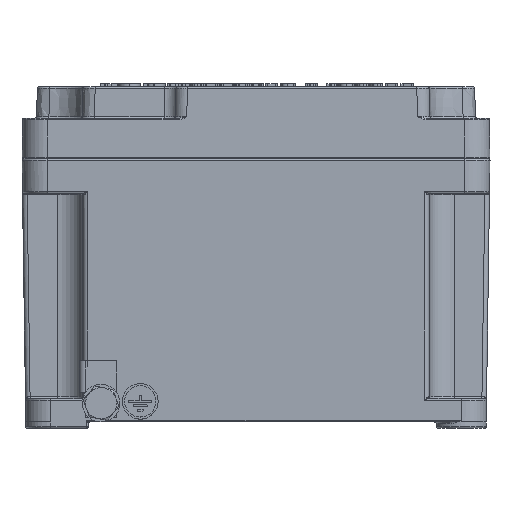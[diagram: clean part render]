
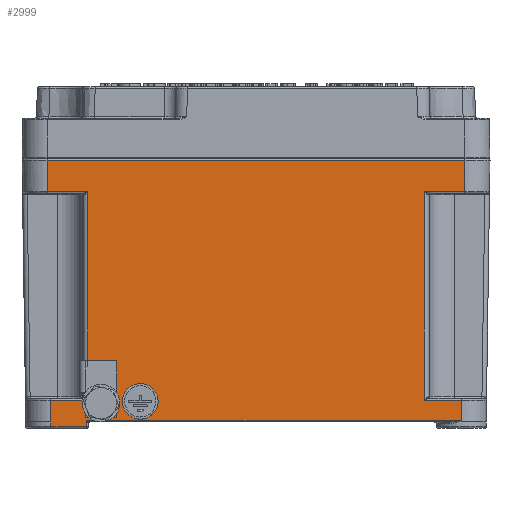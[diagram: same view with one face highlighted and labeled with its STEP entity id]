
A CAD part, left-side view. The second image highlights one B-rep face of the part: STEP entity #2999.
In plain terms, the highlighted planar face has unit normal (-1, 0, -0.015).
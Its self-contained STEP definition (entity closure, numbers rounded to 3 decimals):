
#333=CARTESIAN_POINT('',(-151.13,49.478,8.943));
#334=VERTEX_POINT('',#333);
#342=CARTESIAN_POINT('',(-151.087,49.478,5.993));
#343=DIRECTION('',(-1.,0.,-0.015));
#344=DIRECTION('',(0.015,0.0,-1.));
#345=AXIS2_PLACEMENT_3D('',#342,#343,#344);
#346=ELLIPSE('',#345,2.95,2.95);
#347=EDGE_CURVE('',#334,#334,#346,.T.);
#2276=CARTESIAN_POINT('',(-151.179,36.948,12.302));
#2277=VERTEX_POINT('',#2276);
#2278=CARTESIAN_POINT('',(-151.096,36.948,6.603));
#2279=DIRECTION('',(1.,0.,0.015));
#2280=DIRECTION('',(0.015,0.0,-1.));
#2281=AXIS2_PLACEMENT_3D('',#2278,#2279,#2280);
#2282=CIRCLE('',#2281,5.7);
#2283=EDGE_CURVE('',#2277,#2277,#2282,.T.);
#2850=CARTESIAN_POINT('',(-151.,-73.5,0.0));
#2851=DIRECTION('',(-1.,0.,-0.015));
#2852=DIRECTION('',(0.0,-1.0,0.0));
#2853=AXIS2_PLACEMENT_3D('',#2850,#2851,#2852);
#2854=PLANE('',#2853);
#2855=CARTESIAN_POINT('',(-151.007,53.993,0.493));
#2856=VERTEX_POINT('',#2855);
#2857=CARTESIAN_POINT('',(-150.978,54.022,-1.507));
#2858=VERTEX_POINT('',#2857);
#2859=CARTESIAN_POINT('',(-151.007,53.993,0.493));
#2860=DIRECTION('',(0.015,0.015,-1.));
#2861=VECTOR('',#2860,2.);
#2862=LINE('',#2859,#2861);
#2863=EDGE_CURVE('',#2856,#2858,#2862,.T.);
#2864=ORIENTED_EDGE('',*,*,#2863,.F.);
#2865=CARTESIAN_POINT('',(-151.007,-65.499,0.493));
#2866=VERTEX_POINT('',#2865);
#2867=CARTESIAN_POINT('',(-151.007,53.993,0.493));
#2868=DIRECTION('',(0.0,-1.0,0.0));
#2869=VECTOR('',#2868,119.492);
#2870=LINE('',#2867,#2869);
#2871=EDGE_CURVE('',#2856,#2866,#2870,.T.);
#2872=ORIENTED_EDGE('',*,*,#2871,.T.);
#2873=CARTESIAN_POINT('',(-151.,-65.499,0.0));
#2874=VERTEX_POINT('',#2873);
#2875=CARTESIAN_POINT('',(-151.007,-65.499,0.493));
#2876=DIRECTION('',(0.015,0.0,-1.));
#2877=VECTOR('',#2876,0.493);
#2878=LINE('',#2875,#2877);
#2879=EDGE_CURVE('',#2866,#2874,#2878,.T.);
#2880=ORIENTED_EDGE('',*,*,#2879,.T.);
#2881=CARTESIAN_POINT('',(-151.,-65.501,0.0));
#2882=VERTEX_POINT('',#2881);
#2883=CARTESIAN_POINT('',(-151.,-65.499,0.0));
#2884=DIRECTION('',(0.0,-1.0,0.0));
#2885=VECTOR('',#2884,0.002);
#2886=LINE('',#2883,#2885);
#2887=EDGE_CURVE('',#2874,#2882,#2886,.T.);
#2888=ORIENTED_EDGE('',*,*,#2887,.T.);
#2889=CARTESIAN_POINT('',(-151.102,-65.603,6.993));
#2890=VERTEX_POINT('',#2889);
#2891=CARTESIAN_POINT('',(-151.102,-65.603,6.993));
#2892=DIRECTION('',(0.015,0.015,-1.));
#2893=VECTOR('',#2892,6.994);
#2894=LINE('',#2891,#2893);
#2895=EDGE_CURVE('',#2890,#2882,#2894,.T.);
#2896=ORIENTED_EDGE('',*,*,#2895,.F.);
#2897=CARTESIAN_POINT('',(-151.102,-53.758,6.993));
#2898=VERTEX_POINT('',#2897);
#2899=CARTESIAN_POINT('',(-151.102,-53.758,6.993));
#2900=DIRECTION('',(0.0,-1.0,0.0));
#2901=VECTOR('',#2900,11.844);
#2902=LINE('',#2899,#2901);
#2903=EDGE_CURVE('',#2898,#2890,#2902,.T.);
#2904=ORIENTED_EDGE('',*,*,#2903,.F.);
#2905=CARTESIAN_POINT('',(-152.069,-53.744,73.493));
#2906=VERTEX_POINT('',#2905);
#2907=CARTESIAN_POINT('',(-152.069,-53.744,73.493));
#2908=DIRECTION('',(0.015,0.,-1.));
#2909=VECTOR('',#2908,66.507);
#2910=LINE('',#2907,#2909);
#2911=EDGE_CURVE('',#2906,#2898,#2910,.T.);
#2912=ORIENTED_EDGE('',*,*,#2911,.F.);
#2913=CARTESIAN_POINT('',(-152.069,-66.569,73.493));
#2914=VERTEX_POINT('',#2913);
#2915=CARTESIAN_POINT('',(-152.069,-66.569,73.493));
#2916=DIRECTION('',(0.0,1.0,0.0));
#2917=VECTOR('',#2916,12.825);
#2918=LINE('',#2915,#2917);
#2919=EDGE_CURVE('',#2914,#2906,#2918,.T.);
#2920=ORIENTED_EDGE('',*,*,#2919,.F.);
#2921=CARTESIAN_POINT('',(-152.214,-66.715,83.493));
#2922=VERTEX_POINT('',#2921);
#2923=CARTESIAN_POINT('',(-152.214,-66.715,83.493));
#2924=DIRECTION('',(0.015,0.015,-1.));
#2925=VECTOR('',#2924,10.002);
#2926=LINE('',#2923,#2925);
#2927=EDGE_CURVE('',#2922,#2914,#2926,.T.);
#2928=ORIENTED_EDGE('',*,*,#2927,.F.);
#2929=CARTESIAN_POINT('',(-152.214,66.715,83.493));
#2930=VERTEX_POINT('',#2929);
#2931=CARTESIAN_POINT('',(-152.214,66.715,83.493));
#2932=DIRECTION('',(0.0,-1.0,0.0));
#2933=VECTOR('',#2932,133.43);
#2934=LINE('',#2931,#2933);
#2935=EDGE_CURVE('',#2930,#2922,#2934,.T.);
#2936=ORIENTED_EDGE('',*,*,#2935,.F.);
#2937=CARTESIAN_POINT('',(-152.069,66.569,73.493));
#2938=VERTEX_POINT('',#2937);
#2939=CARTESIAN_POINT('',(-152.069,66.569,73.493));
#2940=DIRECTION('',(-0.015,0.015,1.));
#2941=VECTOR('',#2940,10.002);
#2942=LINE('',#2939,#2941);
#2943=EDGE_CURVE('',#2938,#2930,#2942,.T.);
#2944=ORIENTED_EDGE('',*,*,#2943,.F.);
#2945=CARTESIAN_POINT('',(-152.069,53.744,73.493));
#2946=VERTEX_POINT('',#2945);
#2947=CARTESIAN_POINT('',(-152.069,53.744,73.493));
#2948=DIRECTION('',(0.0,1.0,0.0));
#2949=VECTOR('',#2948,12.825);
#2950=LINE('',#2947,#2949);
#2951=EDGE_CURVE('',#2946,#2938,#2950,.T.);
#2952=ORIENTED_EDGE('',*,*,#2951,.F.);
#2953=CARTESIAN_POINT('',(-151.102,53.758,6.993));
#2954=VERTEX_POINT('',#2953);
#2955=CARTESIAN_POINT('',(-151.102,53.758,6.993));
#2956=DIRECTION('',(-0.015,0.,1.));
#2957=VECTOR('',#2956,66.507);
#2958=LINE('',#2955,#2957);
#2959=EDGE_CURVE('',#2954,#2946,#2958,.T.);
#2960=ORIENTED_EDGE('',*,*,#2959,.F.);
#2961=CARTESIAN_POINT('',(-151.102,65.603,6.993));
#2962=VERTEX_POINT('',#2961);
#2963=CARTESIAN_POINT('',(-151.102,65.603,6.993));
#2964=DIRECTION('',(0.0,-1.0,0.0));
#2965=VECTOR('',#2964,11.844);
#2966=LINE('',#2963,#2965);
#2967=EDGE_CURVE('',#2962,#2954,#2966,.T.);
#2968=ORIENTED_EDGE('',*,*,#2967,.F.);
#2969=CARTESIAN_POINT('',(-151.,65.501,0.0));
#2970=VERTEX_POINT('',#2969);
#2971=CARTESIAN_POINT('',(-151.,65.501,0.));
#2972=DIRECTION('',(-0.015,0.015,1.));
#2973=VECTOR('',#2972,6.994);
#2974=LINE('',#2971,#2973);
#2975=EDGE_CURVE('',#2970,#2962,#2974,.T.);
#2976=ORIENTED_EDGE('',*,*,#2975,.F.);
#2977=CARTESIAN_POINT('',(-150.978,65.501,-1.507));
#2978=VERTEX_POINT('',#2977);
#2979=CARTESIAN_POINT('',(-151.,65.501,0.0));
#2980=DIRECTION('',(0.015,0.0,-1.));
#2981=VECTOR('',#2980,1.507);
#2982=LINE('',#2979,#2981);
#2983=EDGE_CURVE('',#2970,#2978,#2982,.T.);
#2984=ORIENTED_EDGE('',*,*,#2983,.T.);
#2985=CARTESIAN_POINT('',(-150.978,54.022,-1.507));
#2986=DIRECTION('',(0.0,1.0,0.0));
#2987=VECTOR('',#2986,11.479);
#2988=LINE('',#2985,#2987);
#2989=EDGE_CURVE('',#2858,#2978,#2988,.T.);
#2990=ORIENTED_EDGE('',*,*,#2989,.F.);
#2991=EDGE_LOOP('',(#2864,#2872,#2880,#2888,#2896,#2904,#2912,#2920,#2928,#2936,#2944,#2952,#2960,#2968,#2976,#2984,#2990));
#2992=FACE_OUTER_BOUND('',#2991,.T.);
#2993=ORIENTED_EDGE('',*,*,#347,.F.);
#2994=EDGE_LOOP('',(#2993));
#2995=FACE_BOUND('',#2994,.T.);
#2996=ORIENTED_EDGE('',*,*,#2283,.T.);
#2997=EDGE_LOOP('',(#2996));
#2998=FACE_BOUND('',#2997,.T.);
#2999=ADVANCED_FACE('',(#2992,#2995,#2998),#2854,.T.);
